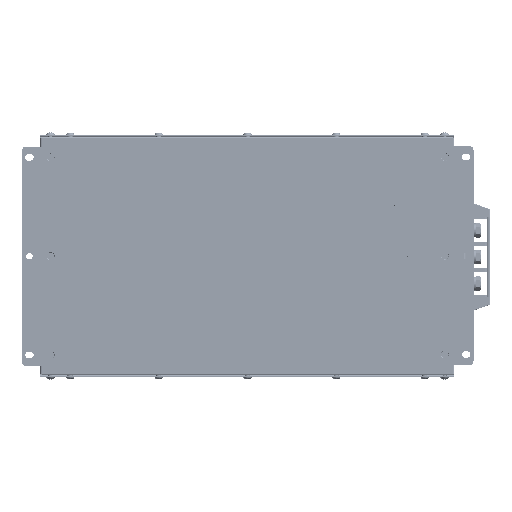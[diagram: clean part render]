
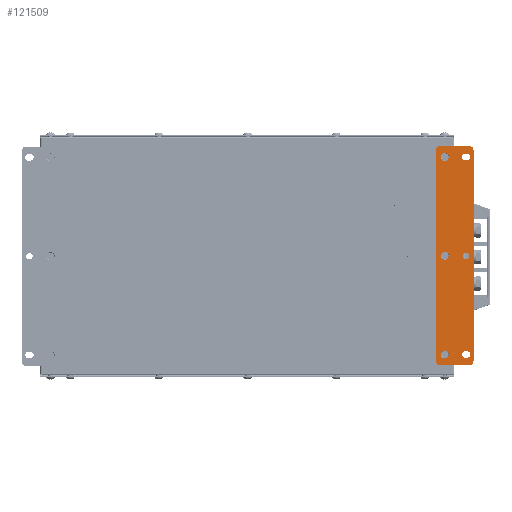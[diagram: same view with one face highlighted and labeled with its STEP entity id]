
A CAD part, front view. The second image highlights one B-rep face of the part: STEP entity #121509.
In plain terms, the highlighted planar face has unit normal (0, -1, 0) as drawn and (0, 1, 0) by its records, which use the part's own axes.
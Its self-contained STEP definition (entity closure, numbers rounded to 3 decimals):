
#5781=FACE_BOUND('',#23318,.T.);
#5782=FACE_BOUND('',#23319,.T.);
#5783=FACE_BOUND('',#23320,.T.);
#5784=FACE_BOUND('',#23321,.T.);
#5785=FACE_BOUND('',#23322,.T.);
#5786=FACE_BOUND('',#23323,.T.);
#9590=PLANE('',#130521);
#15925=FACE_OUTER_BOUND('',#23317,.T.);
#23317=EDGE_LOOP('',(#110011,#110012,#110013,#110014,#110015,#110016,#110017,
#110018));
#23318=EDGE_LOOP('',(#110019));
#23319=EDGE_LOOP('',(#110020));
#23320=EDGE_LOOP('',(#110021));
#23321=EDGE_LOOP('',(#110022));
#23322=EDGE_LOOP('',(#110023,#110024,#110025,#110026));
#23323=EDGE_LOOP('',(#110027,#110028,#110029,#110030));
#34608=LINE('',#223719,#46035);
#34612=LINE('',#223731,#46039);
#34617=LINE('',#223747,#46044);
#34621=LINE('',#223759,#46048);
#34627=LINE('',#223783,#46054);
#34631=LINE('',#223795,#46058);
#34635=LINE('',#223807,#46062);
#34639=LINE('',#223817,#46066);
#46035=VECTOR('',#157939,10.);
#46039=VECTOR('',#157951,10.);
#46044=VECTOR('',#157968,10.);
#46048=VECTOR('',#157980,10.);
#46054=VECTOR('',#158006,10.);
#46058=VECTOR('',#158018,10.);
#46062=VECTOR('',#158030,10.);
#46066=VECTOR('',#158042,10.);
#49065=CIRCLE('',#130472,4.);
#49067=CIRCLE('',#130475,4.);
#49069=CIRCLE('',#130478,4.);
#49074=CIRCLE('',#130487,3.3);
#49076=CIRCLE('',#130491,3.3);
#49079=CIRCLE('',#130497,3.3);
#49081=CIRCLE('',#130501,3.3);
#49082=CIRCLE('',#130503,3.3);
#49085=CIRCLE('',#130507,4.);
#49087=CIRCLE('',#130511,4.);
#49089=CIRCLE('',#130515,4.);
#49091=CIRCLE('',#130519,4.);
#59960=VERTEX_POINT('',#223687);
#59962=VERTEX_POINT('',#223693);
#59964=VERTEX_POINT('',#223699);
#59970=VERTEX_POINT('',#223716);
#59971=VERTEX_POINT('',#223718);
#59973=VERTEX_POINT('',#223724);
#59975=VERTEX_POINT('',#223730);
#59979=VERTEX_POINT('',#223744);
#59980=VERTEX_POINT('',#223746);
#59982=VERTEX_POINT('',#223752);
#59984=VERTEX_POINT('',#223758);
#59985=VERTEX_POINT('',#223765);
#59989=VERTEX_POINT('',#223774);
#59990=VERTEX_POINT('',#223776);
#59992=VERTEX_POINT('',#223782);
#59994=VERTEX_POINT('',#223788);
#59996=VERTEX_POINT('',#223794);
#59998=VERTEX_POINT('',#223800);
#60000=VERTEX_POINT('',#223806);
#60002=VERTEX_POINT('',#223812);
#76714=EDGE_CURVE('',#59960,#59960,#49065,.T.);
#76717=EDGE_CURVE('',#59962,#59962,#49067,.T.);
#76720=EDGE_CURVE('',#59964,#59964,#49069,.T.);
#76729=EDGE_CURVE('',#59971,#59970,#34608,.T.);
#76732=EDGE_CURVE('',#59973,#59971,#49074,.T.);
#76735=EDGE_CURVE('',#59975,#59973,#34612,.T.);
#76738=EDGE_CURVE('',#59970,#59975,#49076,.T.);
#76743=EDGE_CURVE('',#59980,#59979,#34617,.T.);
#76746=EDGE_CURVE('',#59982,#59980,#49079,.T.);
#76749=EDGE_CURVE('',#59984,#59982,#34621,.T.);
#76752=EDGE_CURVE('',#59979,#59984,#49081,.T.);
#76753=EDGE_CURVE('',#59985,#59985,#49082,.T.);
#76758=EDGE_CURVE('',#59990,#59989,#49085,.T.);
#76761=EDGE_CURVE('',#59992,#59990,#34627,.T.);
#76764=EDGE_CURVE('',#59994,#59992,#49087,.T.);
#76767=EDGE_CURVE('',#59996,#59994,#34631,.T.);
#76770=EDGE_CURVE('',#59998,#59996,#49089,.T.);
#76773=EDGE_CURVE('',#60000,#59998,#34635,.T.);
#76776=EDGE_CURVE('',#60002,#60000,#49091,.T.);
#76779=EDGE_CURVE('',#59989,#60002,#34639,.T.);
#110011=ORIENTED_EDGE('',*,*,#76779,.T.);
#110012=ORIENTED_EDGE('',*,*,#76776,.T.);
#110013=ORIENTED_EDGE('',*,*,#76773,.T.);
#110014=ORIENTED_EDGE('',*,*,#76770,.T.);
#110015=ORIENTED_EDGE('',*,*,#76767,.T.);
#110016=ORIENTED_EDGE('',*,*,#76764,.T.);
#110017=ORIENTED_EDGE('',*,*,#76761,.T.);
#110018=ORIENTED_EDGE('',*,*,#76758,.T.);
#110019=ORIENTED_EDGE('',*,*,#76714,.T.);
#110020=ORIENTED_EDGE('',*,*,#76717,.T.);
#110021=ORIENTED_EDGE('',*,*,#76720,.T.);
#110022=ORIENTED_EDGE('',*,*,#76753,.T.);
#110023=ORIENTED_EDGE('',*,*,#76752,.T.);
#110024=ORIENTED_EDGE('',*,*,#76749,.T.);
#110025=ORIENTED_EDGE('',*,*,#76746,.T.);
#110026=ORIENTED_EDGE('',*,*,#76743,.T.);
#110027=ORIENTED_EDGE('',*,*,#76738,.T.);
#110028=ORIENTED_EDGE('',*,*,#76735,.T.);
#110029=ORIENTED_EDGE('',*,*,#76732,.T.);
#110030=ORIENTED_EDGE('',*,*,#76729,.T.);
#121509=ADVANCED_FACE('',(#15925,#5781,#5782,#5783,#5784,#5785,#5786),#9590,
 .T.);
#130472=AXIS2_PLACEMENT_3D('',#223688,#157906,#157907);
#130475=AXIS2_PLACEMENT_3D('',#223694,#157913,#157914);
#130478=AXIS2_PLACEMENT_3D('',#223700,#157920,#157921);
#130487=AXIS2_PLACEMENT_3D('',#223725,#157945,#157946);
#130491=AXIS2_PLACEMENT_3D('',#223735,#157957,#157958);
#130497=AXIS2_PLACEMENT_3D('',#223753,#157974,#157975);
#130501=AXIS2_PLACEMENT_3D('',#223763,#157986,#157987);
#130503=AXIS2_PLACEMENT_3D('',#223766,#157990,#157991);
#130507=AXIS2_PLACEMENT_3D('',#223777,#158000,#158001);
#130511=AXIS2_PLACEMENT_3D('',#223789,#158012,#158013);
#130515=AXIS2_PLACEMENT_3D('',#223801,#158024,#158025);
#130519=AXIS2_PLACEMENT_3D('',#223813,#158036,#158037);
#130521=AXIS2_PLACEMENT_3D('',#223818,#158043,#158044);
#157906=DIRECTION('center_axis',(0.,-1.,0.));
#157907=DIRECTION('ref_axis',(1.,0.,0.));
#157913=DIRECTION('center_axis',(0.,-1.,0.));
#157914=DIRECTION('ref_axis',(1.,0.,0.));
#157920=DIRECTION('center_axis',(0.,-1.,0.));
#157921=DIRECTION('ref_axis',(1.,0.,0.));
#157939=DIRECTION('',(0.,0.,-1.));
#157945=DIRECTION('center_axis',(0.,-1.,0.));
#157946=DIRECTION('ref_axis',(1.,0.,0.));
#157951=DIRECTION('',(0.,0.,1.));
#157957=DIRECTION('center_axis',(0.,-1.,0.));
#157958=DIRECTION('ref_axis',(-1.,0.,0.));
#157968=DIRECTION('',(0.,0.,-1.));
#157974=DIRECTION('center_axis',(0.,-1.,0.));
#157975=DIRECTION('ref_axis',(1.,0.,0.));
#157980=DIRECTION('',(0.,0.,1.));
#157986=DIRECTION('center_axis',(0.,-1.,0.));
#157987=DIRECTION('ref_axis',(-1.,0.,0.));
#157990=DIRECTION('center_axis',(0.,-1.,0.));
#157991=DIRECTION('ref_axis',(1.,0.,0.));
#158000=DIRECTION('center_axis',(0.,1.,0.));
#158001=DIRECTION('ref_axis',(-1.,0.,0.));
#158006=DIRECTION('',(0.,0.,1.));
#158012=DIRECTION('center_axis',(0.,1.,0.));
#158013=DIRECTION('ref_axis',(0.,0.,-1.));
#158018=DIRECTION('',(-1.,0.,0.));
#158024=DIRECTION('center_axis',(0.,1.,0.));
#158025=DIRECTION('ref_axis',(1.,0.,0.));
#158030=DIRECTION('',(0.,0.,-1.));
#158036=DIRECTION('center_axis',(0.,1.,0.));
#158037=DIRECTION('ref_axis',(0.,0.,1.));
#158042=DIRECTION('',(1.,0.,0.));
#158043=DIRECTION('center_axis',(0.,1.,0.));
#158044=DIRECTION('ref_axis',(0.,0.,1.));
#223687=CARTESIAN_POINT('',(-74.294,3.,182.446));
#223688=CARTESIAN_POINT('Origin',(-70.294,3.,182.446));
#223693=CARTESIAN_POINT('',(-174.294,3.,182.446));
#223694=CARTESIAN_POINT('Origin',(-170.294,3.,182.446));
#223699=CARTESIAN_POINT('',(-274.294,3.,182.446));
#223700=CARTESIAN_POINT('Origin',(-270.294,3.,182.446));
#223716=CARTESIAN_POINT('',(-273.594,3.,202.946));
#223718=CARTESIAN_POINT('',(-273.594,3.,204.946));
#223719=CARTESIAN_POINT('',(-273.594,3.,204.946));
#223724=CARTESIAN_POINT('',(-266.994,3.,204.946));
#223725=CARTESIAN_POINT('Origin',(-270.294,3.,204.946));
#223730=CARTESIAN_POINT('',(-266.994,3.,202.946));
#223731=CARTESIAN_POINT('',(-266.994,3.,202.946));
#223735=CARTESIAN_POINT('Origin',(-270.294,3.,202.946));
#223744=CARTESIAN_POINT('',(-73.594,3.,202.946));
#223746=CARTESIAN_POINT('',(-73.594,3.,204.946));
#223747=CARTESIAN_POINT('',(-73.594,3.,204.946));
#223752=CARTESIAN_POINT('',(-66.994,3.,204.946));
#223753=CARTESIAN_POINT('Origin',(-70.294,3.,204.946));
#223758=CARTESIAN_POINT('',(-66.994,3.,202.946));
#223759=CARTESIAN_POINT('',(-66.994,3.,202.946));
#223763=CARTESIAN_POINT('Origin',(-70.294,3.,202.946));
#223765=CARTESIAN_POINT('',(-173.594,3.,203.946));
#223766=CARTESIAN_POINT('Origin',(-170.294,3.,203.946));
#223774=CARTESIAN_POINT('',(-277.294,3.,211.446));
#223776=CARTESIAN_POINT('',(-281.294,3.,207.446));
#223777=CARTESIAN_POINT('Origin',(-277.294,3.,207.446));
#223782=CARTESIAN_POINT('',(-281.294,3.,177.446));
#223783=CARTESIAN_POINT('',(-281.294,3.,177.446));
#223788=CARTESIAN_POINT('',(-277.294,3.,173.446));
#223789=CARTESIAN_POINT('Origin',(-277.294,3.,177.446));
#223794=CARTESIAN_POINT('',(-63.294,3.,173.446));
#223795=CARTESIAN_POINT('',(-63.294,3.,173.446));
#223800=CARTESIAN_POINT('',(-59.294,3.,177.446));
#223801=CARTESIAN_POINT('Origin',(-63.294,3.,177.446));
#223806=CARTESIAN_POINT('',(-59.294,3.,207.446));
#223807=CARTESIAN_POINT('',(-59.294,3.,207.446));
#223812=CARTESIAN_POINT('',(-63.294,3.,211.446));
#223813=CARTESIAN_POINT('Origin',(-63.294,3.,207.446));
#223817=CARTESIAN_POINT('',(-277.294,3.,211.446));
#223818=CARTESIAN_POINT('Origin',(-170.294,3.,192.446));
